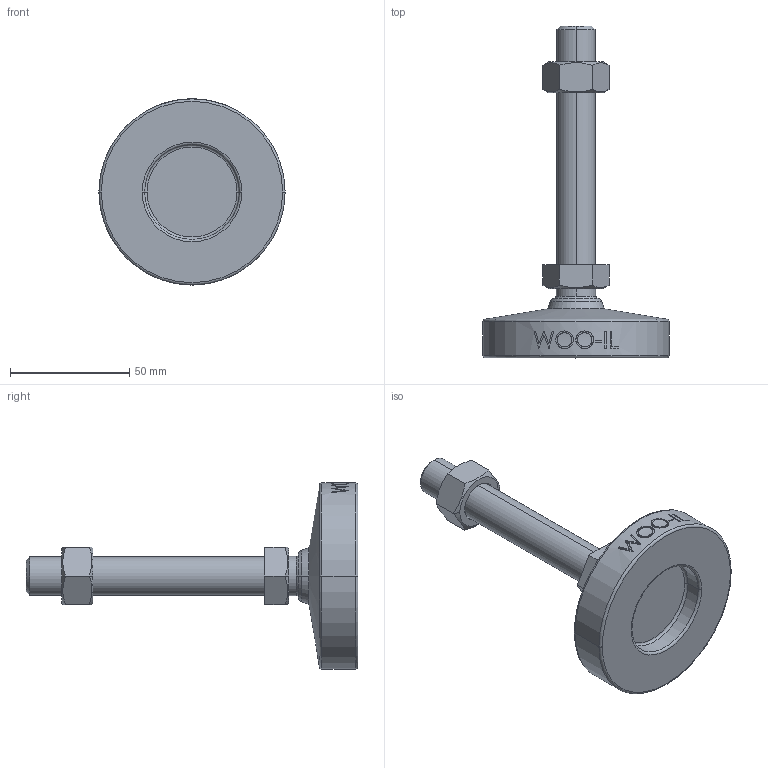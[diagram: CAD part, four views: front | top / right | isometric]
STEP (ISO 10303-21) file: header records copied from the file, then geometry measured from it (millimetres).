
FILE_DESCRIPTION (( 'STEP AP214' ), '1' );
FILE_NAME ('MFN78-M16-100.step', '2021-01-19T06:29:33', ( '' ), ( '' ), 'SwSTEP 2.0', 'SolidWorks 2019', '' );
FILE_SCHEMA (( 'AUTOMOTIVE_DESIGN' ));
Length unit declared in the file: millimetre
Products named in the file (2): MFN78-M16-100
Bounding box: 78 x 139 x 78 mm (x, y, z)
Volume: 107794.1 mm3; surface area: 23225.9 mm2
Topology: 2 solids, 2 shells, 109 faces, 253 edges, 160 vertices
Faces by surface type: plane 47, cone 18, cylinder 18, bspline 16, torus 8, sphere 2
Entity records: 4621 total; most frequent: CARTESIAN_POINT 2196, ORIENTED_EDGE 506, DIRECTION 461, EDGE_CURVE 253, AXIS2_PLACEMENT_3D 179, VERTEX_POINT 160, EDGE_LOOP 123, FACE_OUTER_BOUND 109
